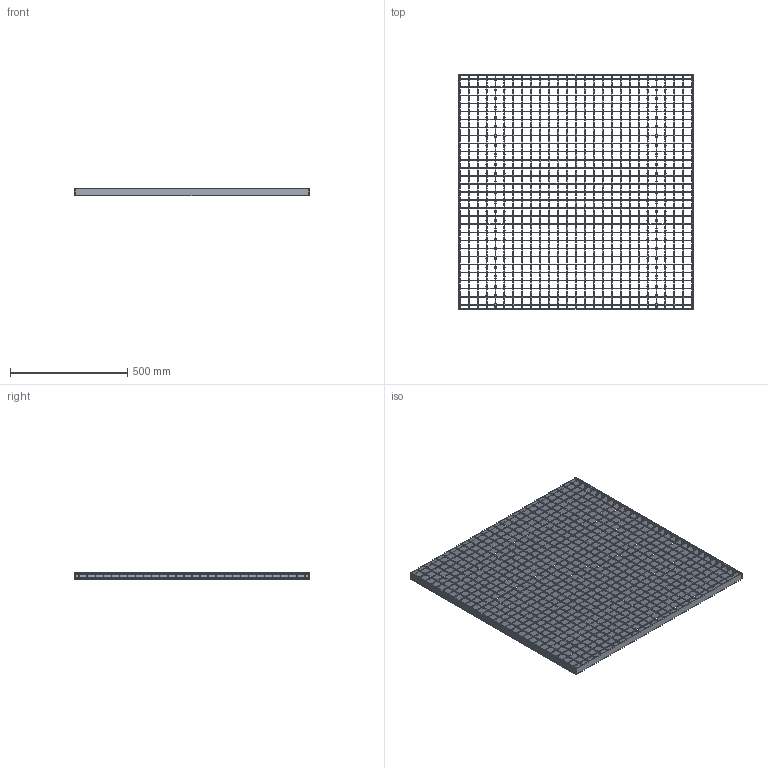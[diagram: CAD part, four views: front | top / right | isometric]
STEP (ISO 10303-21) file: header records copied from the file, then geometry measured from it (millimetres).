
FILE_DESCRIPTION(/* description */ ('STEP AP242','CAx-IF Rec.Pracs.---Representation and Presentation of Product Manufacturing Information (PMI)---4.0---2014-10-13','CAx-IF Rec.Pracs.---3D Tessellated Geometry---0.4---2014-09-14','2;1'),/* implementation_level */ '2;1');
FILE_NAME(/* name */ 'Lichtgitter_Forge_welded_gratings SP 230-34_38-2-1-1-1000-1000_(350_1_0)',/* time_stamp */ '2026-04-23T13:29:48+02:00',/* author */ ('License CC BY-ND 4.0'),/* organization */ ('CADENAS'),/* preprocessor_version */ 'ST-DEVELOPER v20',/* originating_system */ 'PARTsolutions',/* authorisation */ ' ');
FILE_SCHEMA (('FEATURE_BASED_PROCESS_PLANNING','AP242_MANAGED_MODEL_BASED_3D_ENGINEERING_MIM_LF { 1 0 10303 442 3 1 4 }','AP242_MANAGED_MODEL_BASED_3D_ENGINEERING_MIM_LF { 1 0 10303 442 1 1 4 }'));
Length unit declared in the file: millimetre
Products named in the file (5): Lichtgitter_Forge_welded_gratings SP 230-34/38-2-1-1-1000-1000_(350_1
_0); Lichtgitter SP 230-34/38-2_(350_1_2_1000_1000_Schweisspressroste)_VER
TICAL_SIDES; Lichtgitter SP 230-34/38-2_(350_1_2_1000_1000_Schweisspressroste)_HOR
IZONTAL_C; Lichtgitter SP 230-34/38-2_(350_1_2_1000_1000_Schweisspressroste)_HOR
IZONTAL_SIDES; Lichtgitter SP 3.46530-34/38-3.465_(350_1_2_1000_1000_Schweisspressro
ste)_VERTICAL_C
Assembly tree (60 placements, depth 2):
  Lichtgitter_Forge_welded_gratings SP 230-34/38-2-1-1-1000-1000_(350_1
_0)
    Lichtgitter SP 230-34/38-2_(350_1_2_1000_1000_Schweisspressroste)_VER
TICAL_SIDES  x2
    Lichtgitter SP 230-34/38-2_(350_1_2_1000_1000_Schweisspressroste)_HOR
IZONTAL_C  x29
    Lichtgitter SP 230-34/38-2_(350_1_2_1000_1000_Schweisspressroste)_HOR
IZONTAL_SIDES  x2
    Lichtgitter SP 3.46530-34/38-3.465_(350_1_2_1000_1000_Schweisspressro
ste)_VERTICAL_C  x27
Bounding box: 1000 x 1000 x 30.72 mm (x, y, z)
Volume: 2254122 mm3; surface area: 2457047.5 mm2
Topology: 60 solids, 60 shells, 7242 faces, 16074 edges, 8952 vertices
Faces by surface type: bspline 5400, plane 1043, cylinder 799
Entity records: 8935 total; most frequent: CARTESIAN_POINT 2757, ORIENTED_EDGE 1276, DIRECTION 998, EDGE_CURVE 638, LINE 564, VECTOR 564, VERTEX_POINT 360, EDGE_LOOP 286
